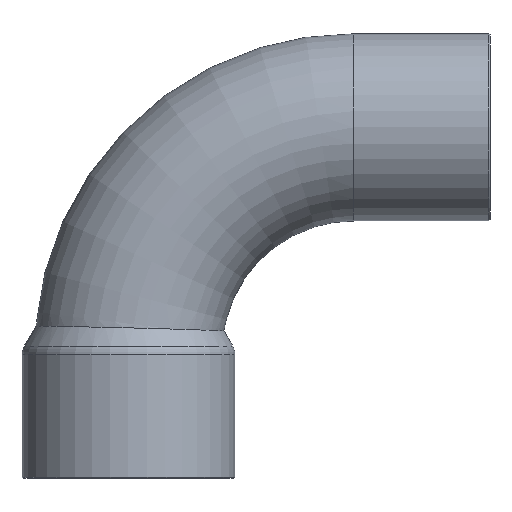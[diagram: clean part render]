
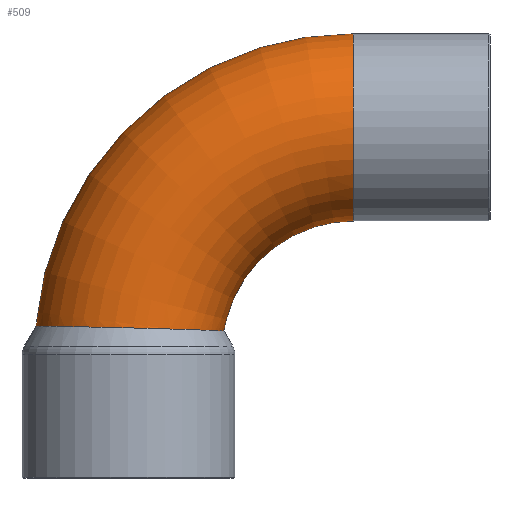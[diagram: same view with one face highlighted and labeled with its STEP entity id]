
A CAD part, left-side view. The second image highlights one B-rep face of the part: STEP entity #509.
In plain terms, the highlighted toroidal (fillet/blend) face has major radius 41.9 mm and minor radius 17.46 mm.
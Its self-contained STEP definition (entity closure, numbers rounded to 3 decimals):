
#360=CARTESIAN_POINT('',(0.,59.159,4.876));
#361=VERTEX_POINT('',#360);
#362=CARTESIAN_POINT('',(0.,59.159,4.876));
#363=CARTESIAN_POINT('',(-2.006,59.159,4.876));
#364=CARTESIAN_POINT('',(-3.996,58.813,4.87));
#365=CARTESIAN_POINT('',(-7.694,57.487,4.847));
#366=CARTESIAN_POINT('',(-9.384,56.543,4.831));
#367=CARTESIAN_POINT('',(-12.692,53.899,4.784));
#368=CARTESIAN_POINT('',(-14.193,52.112,4.751));
#369=CARTESIAN_POINT('',(-16.415,48.055,4.67));
#370=CARTESIAN_POINT('',(-17.114,45.825,4.623));
#371=CARTESIAN_POINT('',(-17.607,41.216,4.516));
#372=CARTESIAN_POINT('',(-17.394,38.882,4.457));
#373=CARTESIAN_POINT('',(-16.075,34.432,4.333));
#374=CARTESIAN_POINT('',(-14.981,32.358,4.27));
#375=CARTESIAN_POINT('',(-12.183,28.921,4.154));
#376=CARTESIAN_POINT('',(-10.566,27.537,4.103));
#377=CARTESIAN_POINT('',(-7.012,25.47,4.023));
#378=CARTESIAN_POINT('',(-5.123,24.769,3.994));
#379=CARTESIAN_POINT('',(-2.128,24.215,3.971));
#380=CARTESIAN_POINT('',(-1.085,24.118,3.967));
#381=CARTESIAN_POINT('',(0.998,24.114,3.967));
#382=CARTESIAN_POINT('',(2.034,24.204,3.971));
#383=CARTESIAN_POINT('',(4.906,24.718,3.992));
#384=CARTESIAN_POINT('',(6.69,25.347,4.018));
#385=CARTESIAN_POINT('',(10.367,27.358,4.097));
#386=CARTESIAN_POINT('',(12.155,28.859,4.153));
#387=CARTESIAN_POINT('',(14.983,32.389,4.27));
#388=CARTESIAN_POINT('',(16.028,34.361,4.331));
#389=CARTESIAN_POINT('',(17.314,38.531,4.448));
#390=CARTESIAN_POINT('',(17.565,40.687,4.503));
#391=CARTESIAN_POINT('',(17.276,44.977,4.604));
#392=CARTESIAN_POINT('',(16.74,47.075,4.649));
#393=CARTESIAN_POINT('',(14.926,50.996,4.729));
#394=CARTESIAN_POINT('',(13.656,52.78,4.763));
#395=CARTESIAN_POINT('',(10.497,55.818,4.819));
#396=CARTESIAN_POINT('',(8.628,57.035,4.84));
#397=CARTESIAN_POINT('',(4.491,58.721,4.868));
#398=CARTESIAN_POINT('',(2.256,59.159,4.876));
#399=CARTESIAN_POINT('',(0.,59.159,4.876));
#400=B_SPLINE_CURVE_WITH_KNOTS('',3,(#362,#363,#364,#365,#366,#367,#368,#369,#370,#371,#372,#373,#374,#375,#376,#377,#378,#379,#380,#381,#382,#383,#384,#385,#386,#387,#388,#389,#390,#391,#392,#393,#394,#395,#396,#397,#398,#399),.UNSPECIFIED.,.T.,.U.,(4,2,2,2,2,2,2,2,2,2,2,2,2,2,2,2,2,2,4),(-11.021,-10.419,-9.842,-9.149,-8.454,-7.758,-7.062,-6.428,-5.828,-5.514,-5.203,-4.639,-3.945,-3.282,-2.636,-1.992,-1.34,-0.677,0.0),.UNSPECIFIED.);
#401=EDGE_CURVE('',#361,#361,#400,.T.);
#490=CARTESIAN_POINT('',(0.0,0.0,0.0));
#491=DIRECTION('',(1.0,0.0,0.0));
#492=DIRECTION('',(0.0,0.0,-1.0));
#493=AXIS2_PLACEMENT_3D('',#490,#491,#492);
#494=TOROIDAL_SURFACE('',#493,41.9,17.46);
#495=CARTESIAN_POINT('',(17.46,0.,41.9));
#496=VERTEX_POINT('',#495);
#497=CARTESIAN_POINT('',(0.0,0.,41.9));
#498=DIRECTION('',(0.0,1.0,0.0));
#499=DIRECTION('',(-1.0,0.0,0.0));
#500=AXIS2_PLACEMENT_3D('',#497,#498,#499);
#501=CIRCLE('',#500,17.46);
#502=EDGE_CURVE('',#496,#496,#501,.T.);
#503=ORIENTED_EDGE('',*,*,#502,.T.);
#504=EDGE_LOOP('',(#503));
#505=FACE_OUTER_BOUND('',#504,.T.);
#506=ORIENTED_EDGE('',*,*,#401,.T.);
#507=EDGE_LOOP('',(#506));
#508=FACE_BOUND('',#507,.T.);
#509=ADVANCED_FACE('',(#505,#508),#494,.T.);
